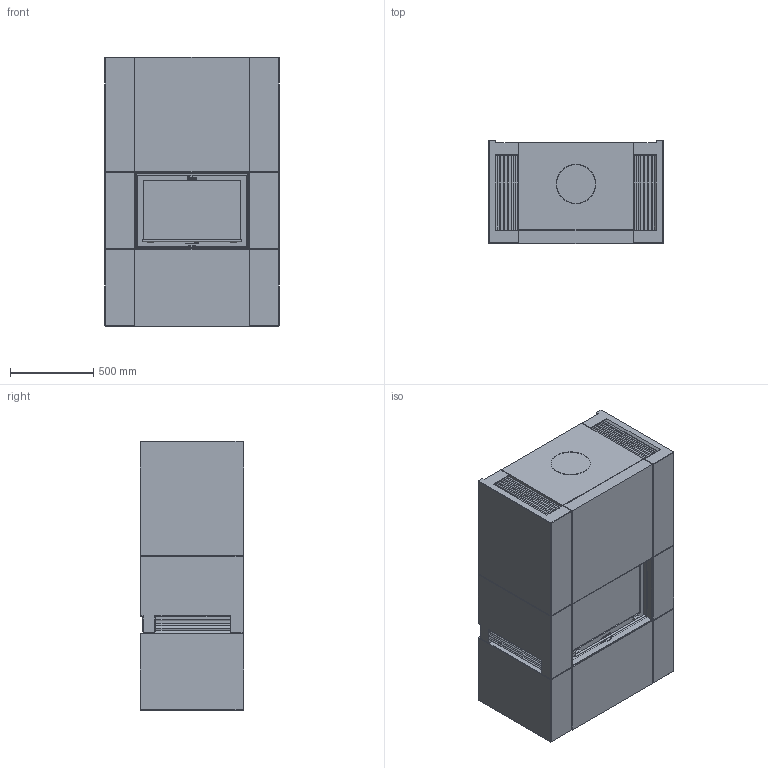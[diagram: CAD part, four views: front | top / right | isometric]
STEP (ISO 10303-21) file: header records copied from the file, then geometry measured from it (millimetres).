
FILE_DESCRIPTION( ( 'Unknown' ), '1' );
FILE_NAME( 'C:/Documents and Settings/hapierrea/Application Data/Unigraphics Solutions/Solid Edge/Insight/insight/Insight/interior models/C11S Assembly.stp', '2010', ( 'Unknown' ), ( 'NIBE AB' ), 'PSStep 11.0', 'Solid Edge', ' ' );
FILE_SCHEMA( ( 'AUTOMOTIVE_DESIGN { 1 0 10303 214 1 1 1 1 }' ) );
Length unit declared in the file: millimetre
Products named in the file (27): Assem1; Fire i10; Grate i10 i20; Grills C11; Insert i10; Firebox insulation i10; Front set C11S; Door i10; Door frame i10; Concrete set C11-oa0; Glass i10
Bounding box: 1050 x 620 x 1618 mm (x, y, z)
Surface area: 47631273.3 mm2
Topology: 52 solids, 52 shells, 3146 faces, 8178 edges, 5394 vertices
Faces by surface type: plane 2268, extrusion 570, cylinder 284, cone 20, sphere 4
Full cylindrical faces by diameter (mm): 10 x32, 12 x2, 100 x6, 200 x6, 233.561 x2, 236.938 x2
Entity records: 67640 total; most frequent: CARTESIAN_POINT 17889, ORIENTED_EDGE 8122, DIRECTION 6327, EDGE_CURVE 4061, VERTEX_POINT 2696, VECTOR 2631, LINE 2346, AXIS2_PLACEMENT_3D 1848
